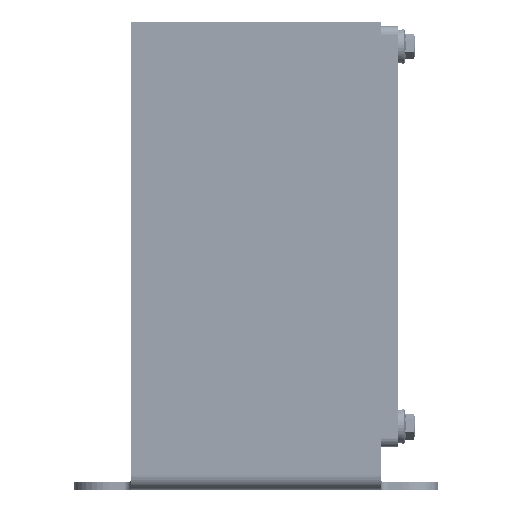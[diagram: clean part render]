
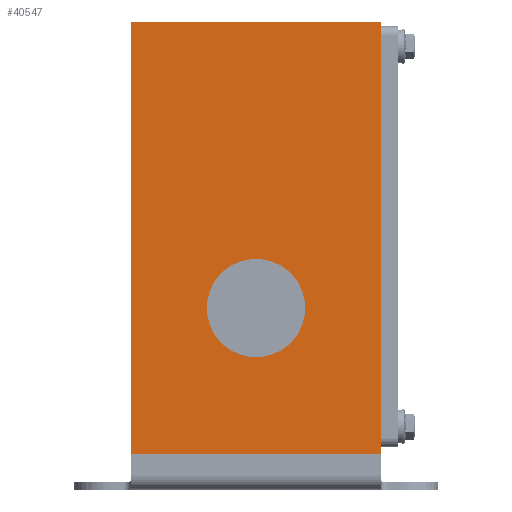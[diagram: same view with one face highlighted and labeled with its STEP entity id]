
A CAD part, front view. The second image highlights one B-rep face of the part: STEP entity #40547.
In plain terms, the highlighted planar face has unit normal (0, -1, 0).
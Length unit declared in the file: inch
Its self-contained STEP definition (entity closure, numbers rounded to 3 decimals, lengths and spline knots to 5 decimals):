
#263 = ORIENTED_EDGE ( 'NONE', *, *, #9916, .F. ) ;
#2037 = CIRCLE ( 'NONE', #5405, 0.6875 ) ;
#2416 = DIRECTION ( 'NONE',  ( 0., -1., 0. ) ) ;
#3237 = FACE_BOUND ( 'NONE', #16764, .T. ) ;
#3440 = PLANE ( 'NONE',  #26415 ) ;
#3790 = ORIENTED_EDGE ( 'NONE', *, *, #36772, .T. ) ;
#4023 = DIRECTION ( 'NONE',  ( -1., 0., 0. ) ) ;
#4150 = LINE ( 'NONE', #39763, #11456 ) ;
#5153 = CARTESIAN_POINT ( 'NONE',  ( -1.75, -8., -3.045 ) ) ;
#5405 = AXIS2_PLACEMENT_3D ( 'NONE', #31291, #2416, #22005 ) ;
#6060 = CARTESIAN_POINT ( 'NONE',  ( 0., -8., -1.6875 ) ) ;
#6188 = EDGE_CURVE ( 'NONE', #14715, #29198, #26576, .T. ) ;
#6343 = ORIENTED_EDGE ( 'NONE', *, *, #6188, .F. ) ;
#7229 = CARTESIAN_POINT ( 'NONE',  ( 0., -8., -0.3125 ) ) ;
#7324 = CIRCLE ( 'NONE', #16086, 0.6875 ) ;
#8466 = CARTESIAN_POINT ( 'NONE',  ( 1.75, -8., 3. ) ) ;
#8714 = DIRECTION ( 'NONE',  ( 0., -1., 0. ) ) ;
#8996 = DIRECTION ( 'NONE',  ( -1., 0., 0. ) ) ;
#9696 = VECTOR ( 'NONE', #4023, 39.37008 ) ;
#9916 = EDGE_CURVE ( 'NONE', #29198, #11423, #38087, .T. ) ;
#10056 = VERTEX_POINT ( 'NONE', #6060 ) ;
#10212 = VERTEX_POINT ( 'NONE', #26547 ) ;
#11423 = VERTEX_POINT ( 'NONE', #5153 ) ;
#11456 = VECTOR ( 'NONE', #35781, 39.37008 ) ;
#13126 = FACE_OUTER_BOUND ( 'NONE', #28938, .T. ) ;
#13167 = EDGE_CURVE ( 'NONE', #10056, #34232, #2037, .T. ) ;
#14715 = VERTEX_POINT ( 'NONE', #8466 ) ;
#15033 = DIRECTION ( 'NONE',  ( 0., 0., -1. ) ) ;
#15087 = ORIENTED_EDGE ( 'NONE', *, *, #24510, .F. ) ;
#16086 = AXIS2_PLACEMENT_3D ( 'NONE', #18204, #8714, #15033 ) ;
#16088 = DIRECTION ( 'NONE',  ( 0., 0., 1. ) ) ;
#16764 = EDGE_LOOP ( 'NONE', ( #40512, #15087 ) ) ;
#17518 = CARTESIAN_POINT ( 'NONE',  ( 1.75, -8., -3. ) ) ;
#17644 = ORIENTED_EDGE ( 'NONE', *, *, #32373, .T. ) ;
#18204 = CARTESIAN_POINT ( 'NONE',  ( 0., -8., -1. ) ) ;
#19237 = DIRECTION ( 'NONE',  ( 0., 1., 0. ) ) ;
#20887 = DIRECTION ( 'NONE',  ( 0., 0., -1. ) ) ;
#22005 = DIRECTION ( 'NONE',  ( 0., 0., -1. ) ) ;
#22485 = CARTESIAN_POINT ( 'NONE',  ( 1.75, -8., -3.045 ) ) ;
#24510 = EDGE_CURVE ( 'NONE', #34232, #10056, #7324, .T. ) ;
#25985 = CARTESIAN_POINT ( 'NONE',  ( 1.75, -8., -3. ) ) ;
#26415 = AXIS2_PLACEMENT_3D ( 'NONE', #25985, #19237, #16088 ) ;
#26547 = CARTESIAN_POINT ( 'NONE',  ( -1.75, -8., 3. ) ) ;
#26556 = CARTESIAN_POINT ( 'NONE',  ( 1.75, -8., -3.045 ) ) ;
#26576 = LINE ( 'NONE', #17518, #38100 ) ;
#28047 = VECTOR ( 'NONE', #8996, 39.37008 ) ;
#28938 = EDGE_LOOP ( 'NONE', ( #17644, #263, #6343, #3790 ) ) ;
#29198 = VERTEX_POINT ( 'NONE', #26556 ) ;
#31291 = CARTESIAN_POINT ( 'NONE',  ( 0., -8., -1. ) ) ;
#31646 = CARTESIAN_POINT ( 'NONE',  ( 1.75, -8., 3. ) ) ;
#32373 = EDGE_CURVE ( 'NONE', #10212, #11423, #4150, .T. ) ;
#34232 = VERTEX_POINT ( 'NONE', #7229 ) ;
#35234 = LINE ( 'NONE', #31646, #9696 ) ;
#35781 = DIRECTION ( 'NONE',  ( 0., 0., -1. ) ) ;
#36772 = EDGE_CURVE ( 'NONE', #14715, #10212, #35234, .T. ) ;
#38087 = LINE ( 'NONE', #22485, #28047 ) ;
#38100 = VECTOR ( 'NONE', #20887, 39.37008 ) ;
#39763 = CARTESIAN_POINT ( 'NONE',  ( -1.75, -8., -3. ) ) ;
#40512 = ORIENTED_EDGE ( 'NONE', *, *, #13167, .F. ) ;
#40547 = ADVANCED_FACE ( 'NONE', ( #3237, #13126 ), #3440, .F. ) ;
